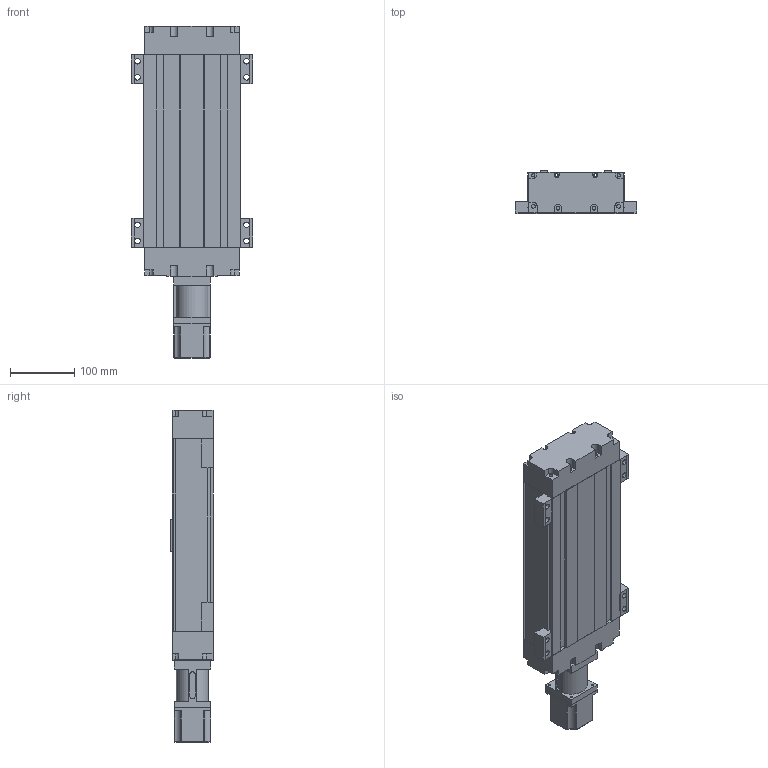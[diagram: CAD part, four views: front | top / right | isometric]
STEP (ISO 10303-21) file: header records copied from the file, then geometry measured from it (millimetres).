
FILE_DESCRIPTION (( 'STEP AP203' ), '1' );
FILE_NAME ('MSY150B设计样例.STEP', '2013-11-02T03:57:45', ( '微软用户' ), ( '微软中国' ), 'SwSTEP 2.0', 'SolidWorks 2010', '' );
FILE_SCHEMA (( 'CONFIG_CONTROL_DESIGN' ));
Length unit declared in the file: millimetre
Products named in the file (1): MSY150B扢數欴瞰
Bounding box: 189 x 67 x 517.5 mm (x, y, z)
Volume: 3525700.9 mm3; surface area: 423779.5 mm2
Topology: 1 solids, 2 shells, 474 faces, 1274 edges, 816 vertices
Faces by surface type: plane 318, cylinder 136, cone 8, sphere 8, torus 4
Entity records: 14773 total; most frequent: CARTESIAN_POINT 2553, ORIENTED_EDGE 2524, DIRECTION 2500, EDGE_CURVE 1262, LINE 974, VECTOR 974, VERTEX_POINT 816, AXIS2_PLACEMENT_3D 763
